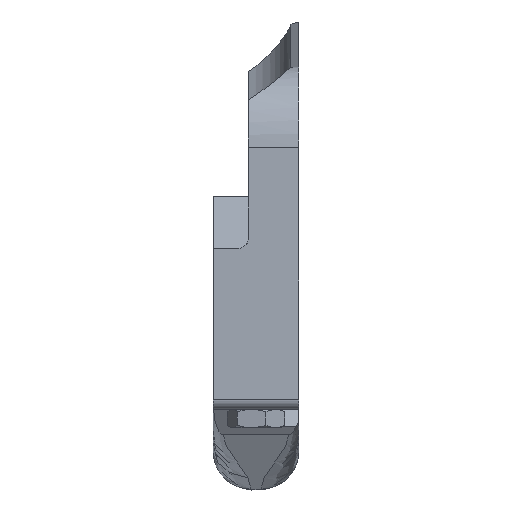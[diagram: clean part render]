
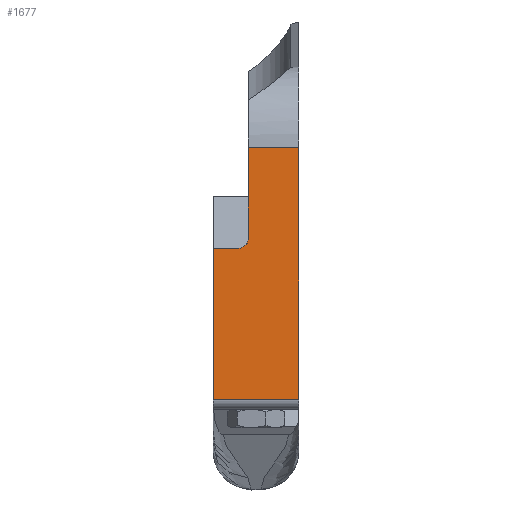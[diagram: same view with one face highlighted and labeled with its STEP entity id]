
A CAD part, left-side view. The second image highlights one B-rep face of the part: STEP entity #1677.
In plain terms, the highlighted planar face has unit normal (-1, 0, 0).
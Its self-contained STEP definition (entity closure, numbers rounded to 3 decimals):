
#215 = DIRECTION ( 'NONE',  ( -1., 0., 0. ) ) ;
#233 = CARTESIAN_POINT ( 'NONE',  ( -55., -8.5, -14. ) ) ;
#298 = ORIENTED_EDGE ( 'NONE', *, *, #4604, .T. ) ;
#485 = LINE ( 'NONE', #1612, #544 ) ;
#544 = VECTOR ( 'NONE', #2334, 1000. ) ;
#679 = VECTOR ( 'NONE', #4279, 1000. ) ;
#692 = LINE ( 'NONE', #4232, #679 ) ;
#846 = ORIENTED_EDGE ( 'NONE', *, *, #3905, .T. ) ;
#890 = LINE ( 'NONE', #5082, #952 ) ;
#952 = VECTOR ( 'NONE', #5044, 1000. ) ;
#1075 = ORIENTED_EDGE ( 'NONE', *, *, #4691, .F. ) ;
#1307 = CIRCLE ( 'NONE', #4797, 2. ) ;
#1517 = PLANE ( 'NONE',  #4898 ) ;
#1575 = FACE_OUTER_BOUND ( 'NONE', #3566, .T. ) ;
#1606 = EDGE_CURVE ( 'NONE', #5387, #5405, #1853, .T. ) ;
#1612 = CARTESIAN_POINT ( 'NONE',  ( -55., 1.5, 11.005 ) ) ;
#1677 = ADVANCED_FACE ( 'NONE', ( #1575 ), #1517, .T. ) ;
#1853 = LINE ( 'NONE', #4712, #4204 ) ;
#1904 = VECTOR ( 'NONE', #4628, 1000. ) ;
#2153 = VERTEX_POINT ( 'NONE', #3784 ) ;
#2334 = DIRECTION ( 'NONE',  ( 0., 0., -1. ) ) ;
#2662 = CARTESIAN_POINT ( 'NONE',  ( -55., 8.5, 16. ) ) ;
#2883 = LINE ( 'NONE', #4645, #1904 ) ;
#3132 = VERTEX_POINT ( 'NONE', #3347 ) ;
#3335 = EDGE_CURVE ( 'NONE', #2153, #4132, #2883, .T. ) ;
#3347 = CARTESIAN_POINT ( 'NONE',  ( -55., 1.5, 18. ) ) ;
#3566 = EDGE_LOOP ( 'NONE', ( #298, #3823, #4653, #4983, #846, #1075, #5348 ) ) ;
#3721 = EDGE_CURVE ( 'NONE', #3132, #5692, #1307, .T. ) ;
#3769 = DIRECTION ( 'NONE',  ( 0., 1., 0. ) ) ;
#3784 = CARTESIAN_POINT ( 'NONE',  ( -55., 8.5, -14. ) ) ;
#3799 = VERTEX_POINT ( 'NONE', #2662 ) ;
#3823 = ORIENTED_EDGE ( 'NONE', *, *, #1606, .T. ) ;
#3905 = EDGE_CURVE ( 'NONE', #5692, #3799, #5445, .T. ) ;
#3914 = CARTESIAN_POINT ( 'NONE',  ( -55., -8.5, -14. ) ) ;
#3959 = DIRECTION ( 'NONE',  ( 0., 0., -1. ) ) ;
#3984 = DIRECTION ( 'NONE',  ( 1., 0., 0. ) ) ;
#4008 = CARTESIAN_POINT ( 'NONE',  ( -55., 3.5, 18. ) ) ;
#4077 = VECTOR ( 'NONE', #4181, 1000. ) ;
#4132 = VERTEX_POINT ( 'NONE', #3914 ) ;
#4181 = DIRECTION ( 'NONE',  ( 0., 1., 0. ) ) ;
#4204 = VECTOR ( 'NONE', #3769, 1000. ) ;
#4232 = CARTESIAN_POINT ( 'NONE',  ( -55., -8.5, 18.204 ) ) ;
#4279 = DIRECTION ( 'NONE',  ( 0., 0., 1. ) ) ;
#4474 = EDGE_CURVE ( 'NONE', #5405, #3132, #485, .T. ) ;
#4551 = CARTESIAN_POINT ( 'NONE',  ( -55., 1.5, 36.01 ) ) ;
#4604 = EDGE_CURVE ( 'NONE', #4132, #5387, #692, .T. ) ;
#4628 = DIRECTION ( 'NONE',  ( 0., -1., 0. ) ) ;
#4645 = CARTESIAN_POINT ( 'NONE',  ( -55., 0., -14. ) ) ;
#4653 = ORIENTED_EDGE ( 'NONE', *, *, #4474, .T. ) ;
#4691 = EDGE_CURVE ( 'NONE', #2153, #3799, #890, .T. ) ;
#4710 = CARTESIAN_POINT ( 'NONE',  ( -55., 0., 16. ) ) ;
#4712 = CARTESIAN_POINT ( 'NONE',  ( -55., -3.5, 36.01 ) ) ;
#4765 = CARTESIAN_POINT ( 'NONE',  ( -55., -8.5, 36.01 ) ) ;
#4797 = AXIS2_PLACEMENT_3D ( 'NONE', #4008, #3984, #3959 ) ;
#4845 = DIRECTION ( 'NONE',  ( 0., 0., 1. ) ) ;
#4898 = AXIS2_PLACEMENT_3D ( 'NONE', #233, #215, #4845 ) ;
#4983 = ORIENTED_EDGE ( 'NONE', *, *, #3721, .T. ) ;
#5010 = CARTESIAN_POINT ( 'NONE',  ( -55., 3.5, 16. ) ) ;
#5044 = DIRECTION ( 'NONE',  ( 0., 0., 1. ) ) ;
#5082 = CARTESIAN_POINT ( 'NONE',  ( -55., 8.5, 0. ) ) ;
#5348 = ORIENTED_EDGE ( 'NONE', *, *, #3335, .T. ) ;
#5387 = VERTEX_POINT ( 'NONE', #4765 ) ;
#5405 = VERTEX_POINT ( 'NONE', #4551 ) ;
#5445 = LINE ( 'NONE', #4710, #4077 ) ;
#5692 = VERTEX_POINT ( 'NONE', #5010 ) ;
